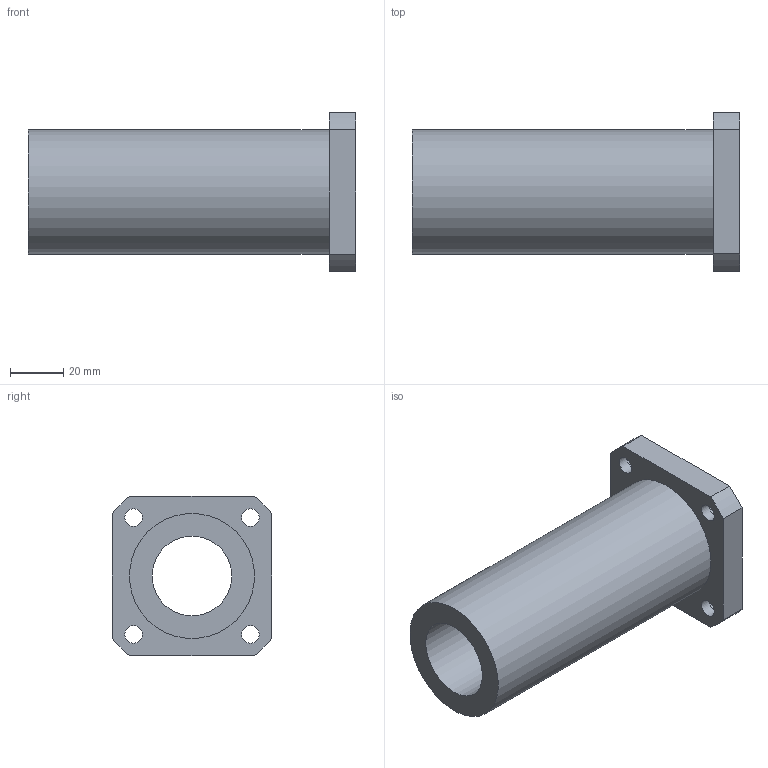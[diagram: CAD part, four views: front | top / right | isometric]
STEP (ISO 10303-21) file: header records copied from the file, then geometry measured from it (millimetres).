
FILE_DESCRIPTION(/* description */ (''),/* implementation_level */ '2;1');
FILE_NAME(/* name */ 'LMEK30LUU',/* time_stamp */ '2019-07-02T15:24:20+02:00',/* author */ ('VĂ©gh MĂˇtĂ©'),/* organization */ ('Bearing Kft'),/* preprocessor_version */ 'ST-DEVELOPER v16.7',/* originating_system */ 'DEX',/* authorisation */ $);
FILE_SCHEMA (('AUTOMOTIVE_DESIGN {1 0 10303 214 3 1 1}'));
Length unit declared in the file: millimetre
Products named in the file (1): LMEK30LUU
Bounding box: 123 x 60 x 60 mm (x, y, z)
Volume: 141426.8 mm3; surface area: 37072.8 mm2
Topology: 1 solids, 1 shells, 345 faces, 870 edges, 580 vertices
Faces by surface type: plane 268, bspline 61, cylinder 16
Full cylindrical faces by diameter (mm): 6.6 x4, 11 x4, 30 x1, 47 x1
Entity records: 13389 total; most frequent: CARTESIAN_POINT 5458, ORIENTED_EDGE 1714, DIRECTION 1337, EDGE_CURVE 857, LINE 703, VECTOR 703, VERTEX_POINT 580, EDGE_LOOP 421
